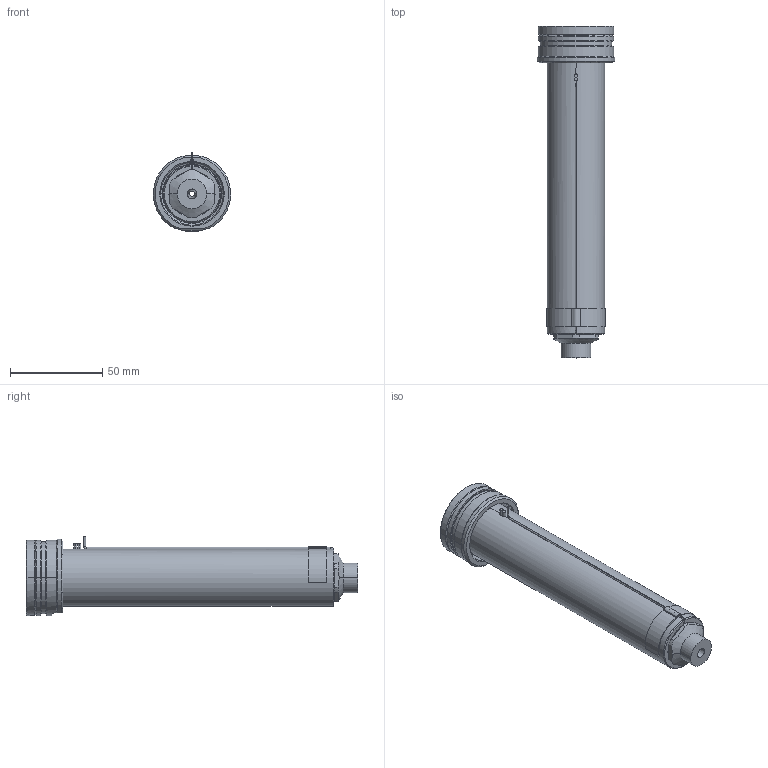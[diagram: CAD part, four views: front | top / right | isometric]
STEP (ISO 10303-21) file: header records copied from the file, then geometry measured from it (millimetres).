
FILE_DESCRIPTION((''),'2;1');
FILE_NAME('EO12_SG_SG_160_SW','2024-02-19T12:28:58',('sundharh'),(''),'CREO PARAMETRIC BY PTC INC, 2023154','CREO PARAMETRIC BY PTC INC, 2023154','');
FILE_SCHEMA(('CONFIG_CONTROL_DESIGN'));
Length unit declared in the file: millimetre
Products named in the file (1): EO12_SG_SG_160_SW
Bounding box: 41.85 x 180 x 43 mm (x, y, z)
Volume: 119675.6 mm3; surface area: 31186.2 mm2
Topology: 2 solids, 3 shells, 176 faces, 438 edges, 266 vertices
Faces by surface type: cylinder 65, plane 45, cone 33, torus 27, sphere 3, bspline 3
Entity records: 5928 total; most frequent: CARTESIAN_POINT 1648, DIRECTION 948, ORIENTED_EDGE 864, EDGE_CURVE 432, AXIS2_PLACEMENT_3D 396, VERTEX_POINT 266, CIRCLE 223, EDGE_LOOP 192
